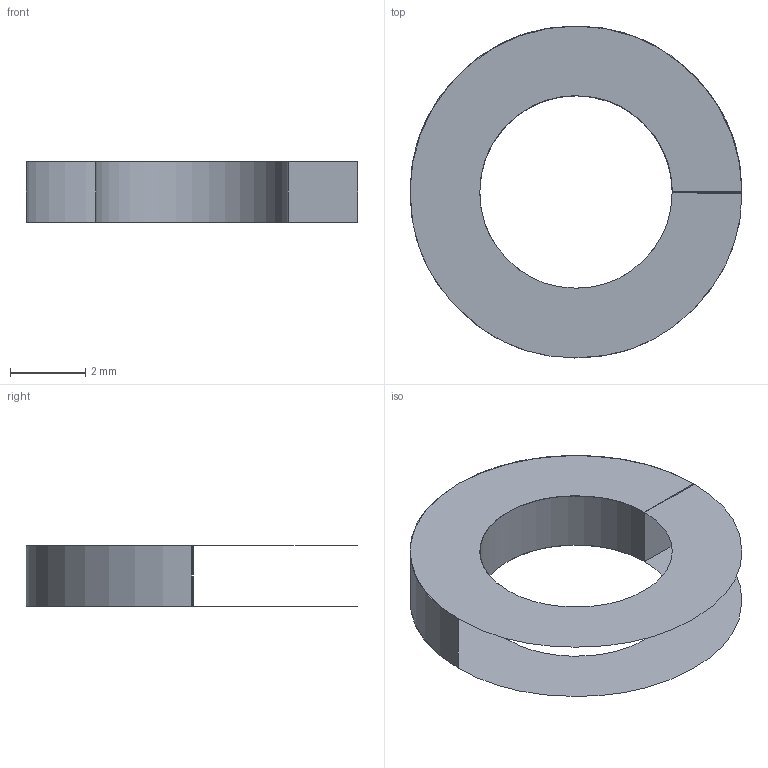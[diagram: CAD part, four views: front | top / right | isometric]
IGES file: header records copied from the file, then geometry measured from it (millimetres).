
Global section: file name: E:\UnigraphicsGraphicData\MISUMI_PRESS-PARTS\IGES\3d_cbw5_06364_r00.igs; native system: NX V5.0; preprocessor: UGS NX IGES V5.0; author: MISUMI; date: 20110105.160204; units: millimetre
Bounding box: 8.8 x 8.8 x 1.6 mm (x, y, z)
Surface area: 121.7 mm2 (no closed solid volume)
Topology: 0 solids, 0 shells, 6 faces, 52 edges, 52 vertices
Faces by surface type: bspline 6
